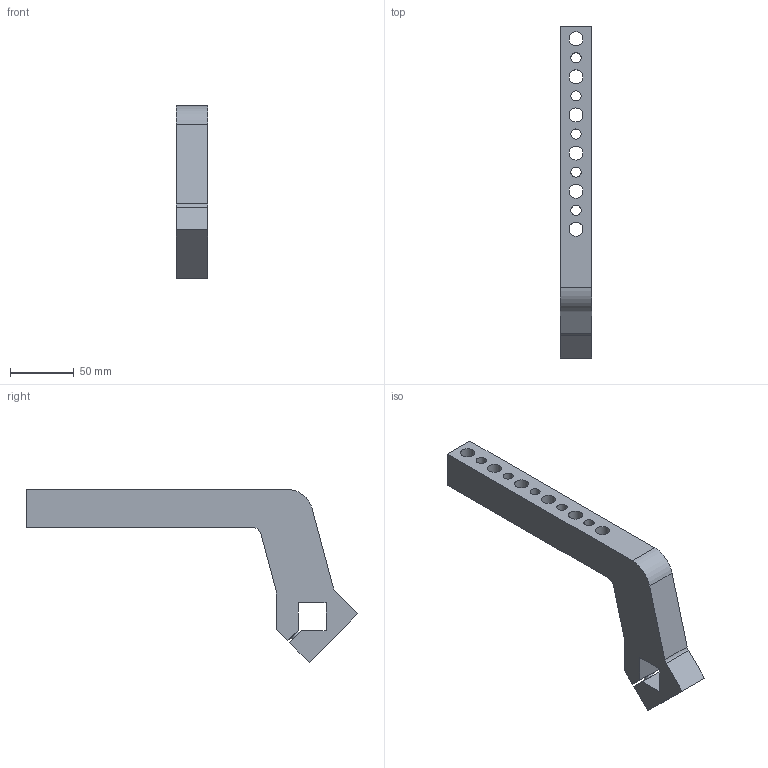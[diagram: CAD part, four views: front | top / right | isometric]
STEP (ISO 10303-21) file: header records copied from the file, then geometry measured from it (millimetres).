
FILE_DESCRIPTION(/* description */ (''),/* implementation_level */ '2;1');
FILE_NAME(/* name */ 'C:\PNX_VAULTFOLDER\Area Tecnica\Disegni\VARIE-3D\Componenti\7000\QNACA###M\QNACA034M.stp',/* time_stamp */ '2018-10-18T14:53:34+02:00',/* author */ ('donadda1'),/* organization */ ('Pneumax S.p.A.'),/* preprocessor_version */ 'ST-DEVELOPER v17',/* originating_system */ 'Autodesk Inventor 2019',/* authorisation */ '');
FILE_SCHEMA (('AUTOMOTIVE_DESIGN { 1 0 10303 214 3 1 1 }'));
Length unit declared in the file: millimetre
Products named in the file (1): QNACA034M
Bounding box: 25 x 261.06 x 136.06 mm (x, y, z)
Volume: 246615.8 mm3; surface area: 50429.9 mm2
Topology: 1 solids, 1 shells, 34 faces, 96 edges, 64 vertices
Faces by surface type: plane 18, cylinder 16
Full cylindrical faces by diameter (mm): 8 x6, 11 x6
Entity records: 1199 total; most frequent: DIRECTION 198, CARTESIAN_POINT 195, ORIENTED_EDGE 192, EDGE_CURVE 96, AXIS2_PLACEMENT_3D 67, LINE 64, VECTOR 64, VERTEX_POINT 64
